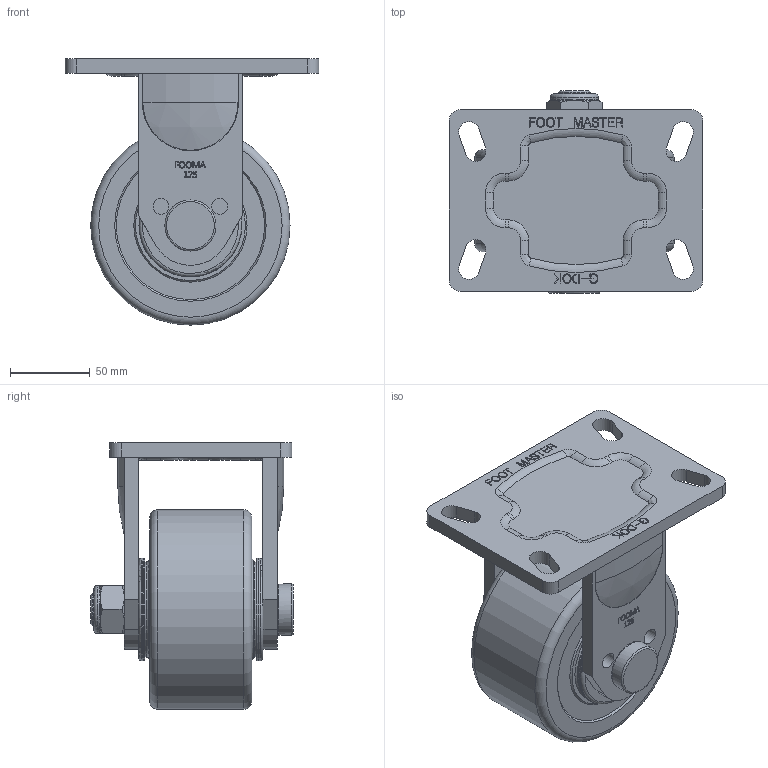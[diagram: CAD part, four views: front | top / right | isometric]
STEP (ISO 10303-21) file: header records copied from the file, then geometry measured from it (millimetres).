
FILE_DESCRIPTION(/* description */ (''),/* implementation_level */ '2;1');
FILE_NAME(/* name */ 'C:\Users\황치선\Desktop\JYS\4.DWG WORK\GF-SERIES 신규 홈페이지용 도면\GF-125-ASF-MCD\GF-125-ARF-MCD.stp',/* time_stamp */ '2019-08-29T19:22:55+09:00',/* author */ ('황치선'),/* organization */ (''),/* preprocessor_version */ 'ST-DEVELOPER v16.13',/* originating_system */ 'Autodesk Inventor 2018',/* authorisation */ '');
FILE_SCHEMA (('AUTOMOTIVE_DESIGN { 1 0 10303 214 3 1 1 }'));
Length unit declared in the file: millimetre
Products named in the file (1): GF-125-ARF-MCD
Bounding box: 159 x 127 x 167 mm (x, y, z)
Surface area: 136047.7 mm2 (no closed solid volume)
Topology: 0 solids, 1 shells, 1041 faces, 2905 edges, 1879 vertices
Faces by surface type: plane 407, bspline 402, cylinder 148, torus 50, cone 26, sphere 8
Full cylindrical faces by diameter (mm): 10 x4, 20 x3, 20.2 x2, 24.9 x2, 30 x1, 32 x1, 32.334 x2, 39.666 x2, 64.519 x2, 125 x1
Entity records: 35682 total; most frequent: CARTESIAN_POINT 11595, ORIENTED_EDGE 5620, DIRECTION 3893, EDGE_CURVE 2806, VERTEX_POINT 1857, LINE 1367, VECTOR 1367, AXIS2_PLACEMENT_3D 1263
